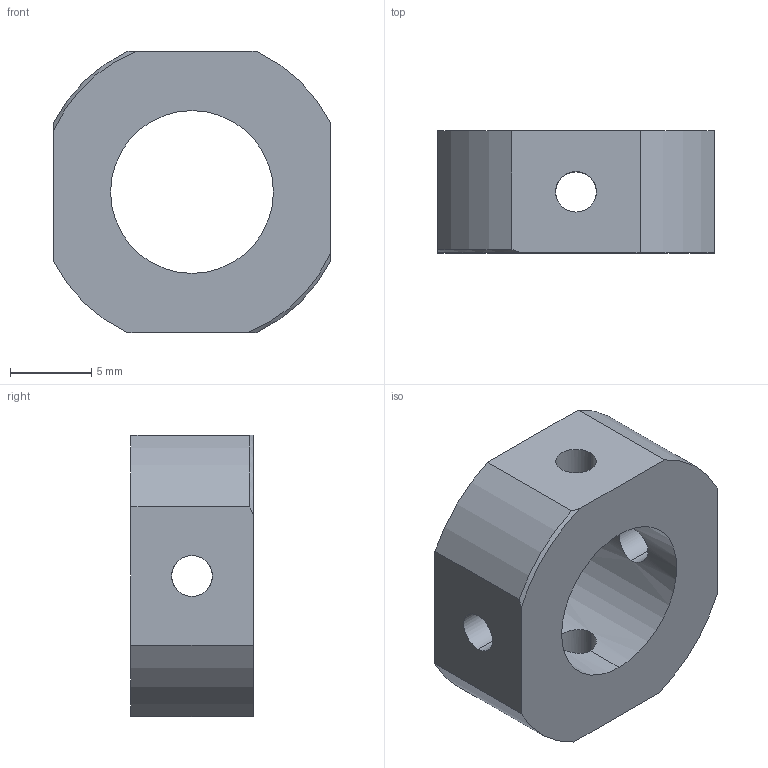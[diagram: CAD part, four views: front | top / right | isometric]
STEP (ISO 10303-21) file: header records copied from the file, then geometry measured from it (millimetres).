
FILE_DESCRIPTION (( 'STEP AP203' ), '1' );
FILE_NAME ('絮え坶踡謫.step', '2026-06-30T10:58:43', ( '' ), ( '' ), 'SwSTEP 2.0', 'SolidWorks 2024', '' );
FILE_SCHEMA (( 'CONFIG_CONTROL_DESIGN' ));
Length unit declared in the file: millimetre
Products named in the file (1): 刀片锁紧轮
Bounding box: 17 x 7.5 x 17.3 mm (x, y, z)
Volume: 1312.7 mm3; surface area: 1117.7 mm2
Topology: 1 solids, 1 shells, 22 faces, 66 edges, 44 vertices
Faces by surface type: cylinder 14, plane 6, cone 2
Entity records: 993 total; most frequent: CARTESIAN_POINT 309, ORIENTED_EDGE 132, DIRECTION 118, EDGE_CURVE 66, AXIS2_PLACEMENT_3D 45, VERTEX_POINT 44, EDGE_LOOP 30, LINE 28
